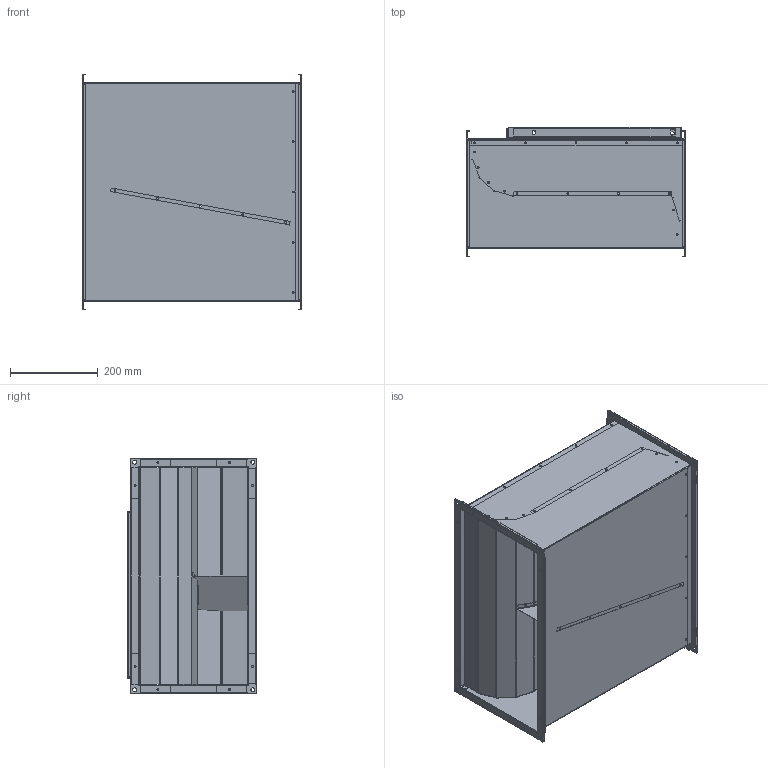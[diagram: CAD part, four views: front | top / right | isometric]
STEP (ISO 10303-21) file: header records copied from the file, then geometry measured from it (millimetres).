
FILE_DESCRIPTION (( 'STEP AP203' ), '1' );
FILE_NAME ('131345-00_KVR05025EC30.STEP', '2015-05-11T05:55:57', ( '' ), ( '' ), 'SwSTEP 2.0', 'SolidWorks 2012', '' );
FILE_SCHEMA (( 'CONFIG_CONTROL_DESIGN' ));
Length unit declared in the file: millimetre
Products named in the file (1): 131345-00_KVR05025EC30
Bounding box: 500.4 x 296.2 x 538.4 mm (x, y, z)
Surface area: 2658645 mm2 (no closed solid volume)
Topology: 0 solids, 65 shells, 777 faces, 2518 edges, 1773 vertices
Faces by surface type: cylinder 445, plane 311, bspline 9, torus 8, cone 4
Entity records: 29038 total; most frequent: CARTESIAN_POINT 6011, DIRECTION 5039, ORIENTED_EDGE 4058, EDGE_CURVE 2518, AXIS2_PLACEMENT_3D 1827, VERTEX_POINT 1773, LINE 1385, VECTOR 1385
